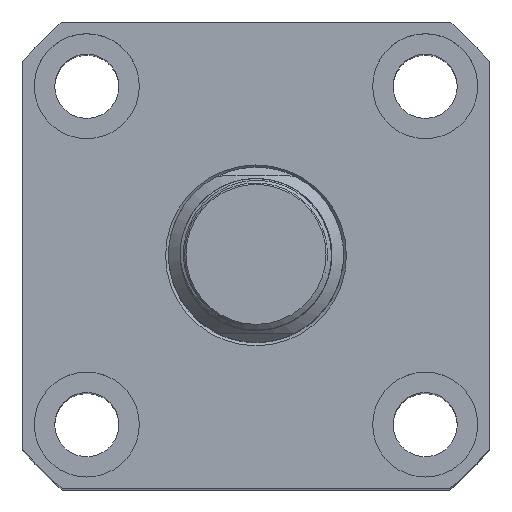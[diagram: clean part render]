
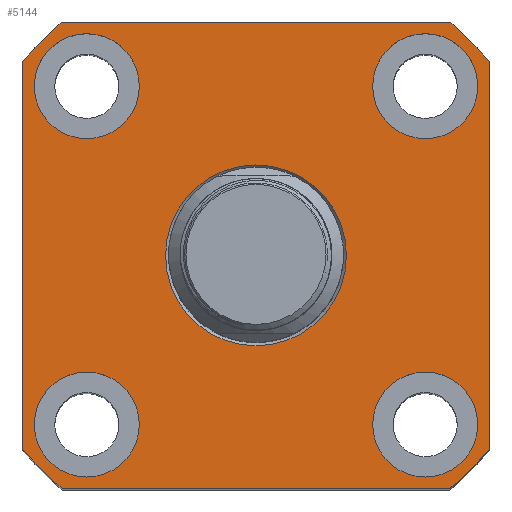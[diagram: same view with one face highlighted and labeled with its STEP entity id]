
A CAD part, top view. The second image highlights one B-rep face of the part: STEP entity #5144.
In plain terms, the highlighted planar face has unit normal (0, 0, 1).
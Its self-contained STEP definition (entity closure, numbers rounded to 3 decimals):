
#2348=PLANE('',#11502);
#3222=LINE('',#15259,#3960);
#3229=LINE('',#15922,#3967);
#3233=LINE('',#15934,#3971);
#3236=LINE('',#15946,#3974);
#3960=VECTOR('',#11949,1.);
#3967=VECTOR('',#12108,1.);
#3971=VECTOR('',#12120,1.);
#3974=VECTOR('',#12137,1.);
#5144=ADVANCED_FACE('',(#5641,#5642,#5643,#5644,#5645,#5646),#2348,.T.);
#5641=FACE_BOUND('',#5893,.T.);
#5642=FACE_BOUND('',#5894,.T.);
#5643=FACE_BOUND('',#5895,.T.);
#5644=FACE_BOUND('',#5896,.T.);
#5645=FACE_BOUND('',#5897,.T.);
#5646=FACE_BOUND('',#5898,.T.);
#5893=EDGE_LOOP('',(#6642));
#5894=EDGE_LOOP('',(#6643));
#5895=EDGE_LOOP('',(#6644));
#5896=EDGE_LOOP('',(#6645));
#5897=EDGE_LOOP('',(#6646));
#5898=EDGE_LOOP('',(#6647,#6648,#6649,#6650,#6651,#6652,#6653,#6654));
#6642=ORIENTED_EDGE('',*,*,#10030,.T.);
#6643=ORIENTED_EDGE('',*,*,#10093,.F.);
#6644=ORIENTED_EDGE('',*,*,#10095,.F.);
#6645=ORIENTED_EDGE('',*,*,#10097,.F.);
#6646=ORIENTED_EDGE('',*,*,#10099,.F.);
#6647=ORIENTED_EDGE('',*,*,#10119,.T.);
#6648=ORIENTED_EDGE('',*,*,#10123,.T.);
#6649=ORIENTED_EDGE('',*,*,#10126,.T.);
#6650=ORIENTED_EDGE('',*,*,#10129,.T.);
#6651=ORIENTED_EDGE('',*,*,#10131,.T.);
#6652=ORIENTED_EDGE('',*,*,#10028,.T.);
#6653=ORIENTED_EDGE('',*,*,#10134,.T.);
#6654=ORIENTED_EDGE('',*,*,#10136,.T.);
#9041=VERTEX_POINT('',#15258);
#9042=VERTEX_POINT('',#15260);
#9043=VERTEX_POINT('',#15264);
#9106=VERTEX_POINT('',#15850);
#9108=VERTEX_POINT('',#15855);
#9110=VERTEX_POINT('',#15860);
#9112=VERTEX_POINT('',#15865);
#9132=VERTEX_POINT('',#15913);
#9133=VERTEX_POINT('',#15915);
#9135=VERTEX_POINT('',#15921);
#9137=VERTEX_POINT('',#15927);
#9139=VERTEX_POINT('',#15933);
#9141=VERTEX_POINT('',#15942);
#10028=EDGE_CURVE('',#9042,#9041,#3222,.T.);
#10030=EDGE_CURVE('',#9043,#9043,#11269,.T.);
#10093=EDGE_CURVE('',#9106,#9106,#11292,.T.);
#10095=EDGE_CURVE('',#9108,#9108,#11294,.T.);
#10097=EDGE_CURVE('',#9110,#9110,#11296,.T.);
#10099=EDGE_CURVE('',#9112,#9112,#11298,.T.);
#10119=EDGE_CURVE('',#9133,#9132,#11317,.T.);
#10123=EDGE_CURVE('',#9132,#9135,#3229,.T.);
#10126=EDGE_CURVE('',#9135,#9137,#11319,.T.);
#10129=EDGE_CURVE('',#9137,#9139,#3233,.T.);
#10131=EDGE_CURVE('',#9139,#9042,#11321,.T.);
#10134=EDGE_CURVE('',#9041,#9141,#11323,.T.);
#10136=EDGE_CURVE('',#9141,#9133,#3236,.T.);
#11269=CIRCLE('',#11415,15.5);
#11292=CIRCLE('',#11451,9.);
#11294=CIRCLE('',#11454,9.);
#11296=CIRCLE('',#11457,9.);
#11298=CIRCLE('',#11460,9.);
#11317=CIRCLE('',#11488,52.);
#11319=CIRCLE('',#11492,52.);
#11321=CIRCLE('',#11496,52.);
#11323=CIRCLE('',#11499,52.);
#11415=AXIS2_PLACEMENT_3D('',#15263,#11953,#11954);
#11451=AXIS2_PLACEMENT_3D('',#15849,#12026,#12027);
#11454=AXIS2_PLACEMENT_3D('',#15854,#12032,#12033);
#11457=AXIS2_PLACEMENT_3D('',#15859,#12038,#12039);
#11460=AXIS2_PLACEMENT_3D('',#15864,#12044,#12045);
#11488=AXIS2_PLACEMENT_3D('',#15914,#12101,#12102);
#11492=AXIS2_PLACEMENT_3D('',#15928,#12114,#12115);
#11496=AXIS2_PLACEMENT_3D('',#15937,#12125,#12126);
#11499=AXIS2_PLACEMENT_3D('',#15943,#12132,#12133);
#11502=AXIS2_PLACEMENT_3D('',#15948,#12140,#12141);
#11949=DIRECTION('',(0.,1.,0.));
#11953=DIRECTION('',(0.,0.,-1.));
#11954=DIRECTION('',(1.,0.,0.));
#12026=DIRECTION('',(0.,0.,1.));
#12027=DIRECTION('',(1.,0.,0.));
#12032=DIRECTION('',(0.,0.,1.));
#12033=DIRECTION('',(1.,0.,0.));
#12038=DIRECTION('',(0.,0.,1.));
#12039=DIRECTION('',(1.,0.,0.));
#12044=DIRECTION('',(0.,0.,1.));
#12045=DIRECTION('',(1.,0.,0.));
#12101=DIRECTION('',(0.,0.,1.));
#12102=DIRECTION('',(1.,0.,0.));
#12108=DIRECTION('',(0.,-1.,0.));
#12114=DIRECTION('',(0.,0.,1.));
#12115=DIRECTION('',(1.,0.,0.));
#12120=DIRECTION('',(1.,0.,0.));
#12125=DIRECTION('',(0.,0.,1.));
#12126=DIRECTION('',(1.,0.,0.));
#12132=DIRECTION('',(0.,0.,1.));
#12133=DIRECTION('',(1.,0.,0.));
#12137=DIRECTION('',(-1.,0.,0.));
#12140=DIRECTION('',(0.,0.,1.));
#12141=DIRECTION('',(-1.,0.,0.));
#15258=CARTESIAN_POINT('',(40.,33.226,62.5));
#15259=CARTESIAN_POINT('',(40.,33.226,62.5));
#15260=CARTESIAN_POINT('',(40.,-33.226,62.5));
#15263=CARTESIAN_POINT('',(0.,0.,62.5));
#15264=CARTESIAN_POINT('',(15.5,0.,62.5));
#15849=CARTESIAN_POINT('',(29.,-29.,62.5));
#15850=CARTESIAN_POINT('',(38.,-29.,62.5));
#15854=CARTESIAN_POINT('',(-29.,-29.,62.5));
#15855=CARTESIAN_POINT('',(-20.,-29.,62.5));
#15859=CARTESIAN_POINT('',(-29.,29.,62.5));
#15860=CARTESIAN_POINT('',(-20.,29.,62.5));
#15864=CARTESIAN_POINT('',(29.,29.,62.5));
#15865=CARTESIAN_POINT('',(38.,29.,62.5));
#15913=CARTESIAN_POINT('',(-40.,33.226,62.5));
#15914=CARTESIAN_POINT('',(0.,0.,62.5));
#15915=CARTESIAN_POINT('',(-33.226,40.,62.5));
#15921=CARTESIAN_POINT('',(-40.,-33.226,62.5));
#15922=CARTESIAN_POINT('',(-40.,33.226,62.5));
#15927=CARTESIAN_POINT('',(-33.226,-40.,62.5));
#15928=CARTESIAN_POINT('',(0.,0.,62.5));
#15933=CARTESIAN_POINT('',(33.226,-40.,62.5));
#15934=CARTESIAN_POINT('',(-33.226,-40.,62.5));
#15937=CARTESIAN_POINT('',(0.,0.,62.5));
#15942=CARTESIAN_POINT('',(33.226,40.,62.5));
#15943=CARTESIAN_POINT('',(0.,0.,62.5));
#15946=CARTESIAN_POINT('',(-33.226,40.,62.5));
#15948=CARTESIAN_POINT('',(0.,0.,62.5));
